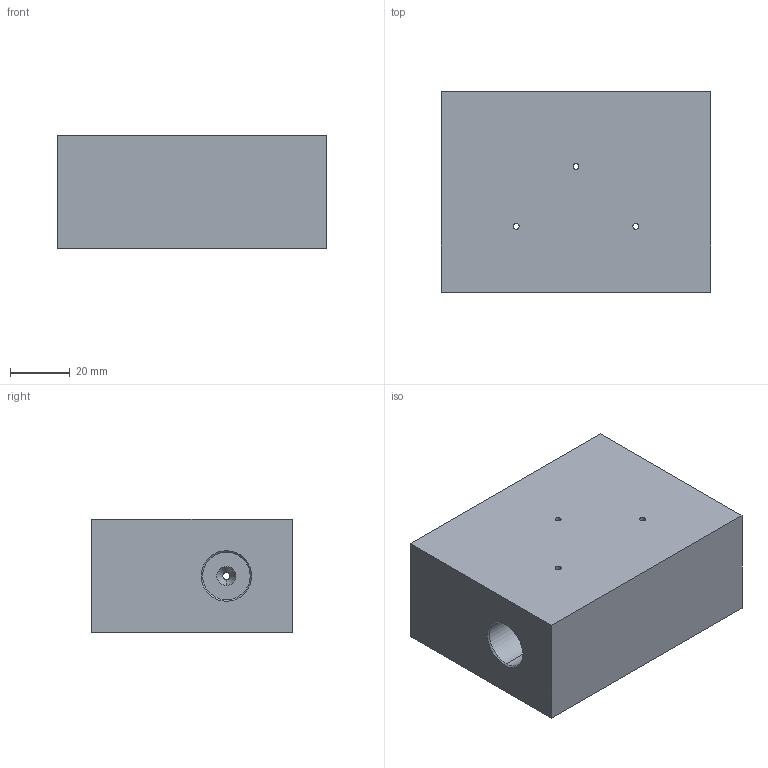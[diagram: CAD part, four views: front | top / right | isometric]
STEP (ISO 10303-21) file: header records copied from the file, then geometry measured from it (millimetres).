
FILE_DESCRIPTION (( 'STEP AP203' ), '1' );
FILE_NAME ('FT150TS06.STEP', '2026-06-26T01:39:55', ( 'USER' ), ( '' ), 'SwSTEP 2.0', 'SolidWorks 2023', '' );
FILE_SCHEMA (( 'CONFIG_CONTROL_DESIGN' ));
Length unit declared in the file: millimetre
Products named in the file (1): FT150TS06
Bounding box: 90 x 67 x 38 mm (x, y, z)
Volume: 212507.9 mm3; surface area: 28757.2 mm2
Topology: 1 solids, 1 shells, 44 faces, 114 edges, 68 vertices
Faces by surface type: cylinder 23, cone 12, plane 9
Entity records: 1601 total; most frequent: CARTESIAN_POINT 429, DIRECTION 228, ORIENTED_EDGE 228, EDGE_CURVE 114, AXIS2_PLACEMENT_3D 87, VERTEX_POINT 68, EDGE_LOOP 56, LINE 54
